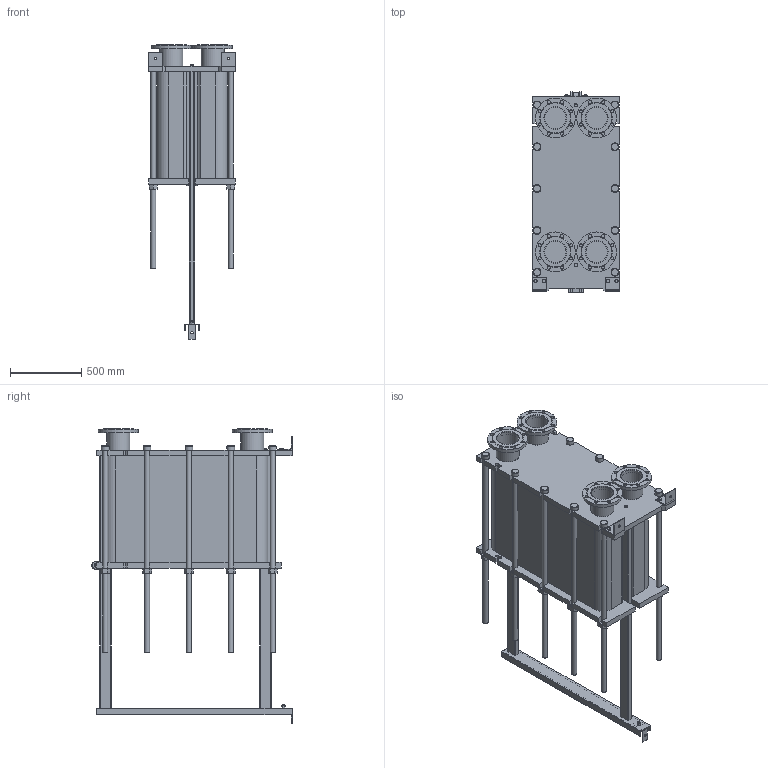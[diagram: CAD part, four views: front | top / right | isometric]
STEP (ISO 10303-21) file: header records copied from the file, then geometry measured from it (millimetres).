
FILE_DESCRIPTION(/* description */ (''),/* implementation_level */ '2;1');
FILE_NAME(/* name */ 'C:\Users\zhuro\Desktop\ENCO\TO\ЭН-041\ЭН-0,5-041-217-1.stp',/* time_stamp */ '2022-06-06T11:07:14+03:00',/* author */ ('zhuro'),/* organization */ (''),/* preprocessor_version */ 'ST-DEVELOPER v18.1',/* originating_system */ 'Autodesk Inventor 2022',/* authorisation */ '');
FILE_SCHEMA (('AUTOMOTIVE_DESIGN { 1 0 10303 214 3 1 1 }'));
Length unit declared in the file: millimetre
Products named in the file (1): ЭН-0,5-041-217-1
Bounding box: 610 x 1406.5 x 2067.5 mm (x, y, z)
Volume: 509763710 mm3; surface area: 11604265.2 mm2
Topology: 52 solids, 52 shells, 711 faces, 1696 edges, 1094 vertices
Faces by surface type: plane 487, cylinder 177, cone 41, torus 6
Full cylindrical faces by diameter (mm): 8 x4, 10 x2, 16 x8, 18 x3, 22 x32, 36 x24, 50 x1, 54 x10, 60 x12, 151 x4, 161 x8, 280 x4
Entity records: 22667 total; most frequent: CARTESIAN_POINT 5230, DIRECTION 3644, ORIENTED_EDGE 3392, EDGE_CURVE 1696, AXIS2_PLACEMENT_3D 1272, LINE 1100, VECTOR 1100, VERTEX_POINT 1094
